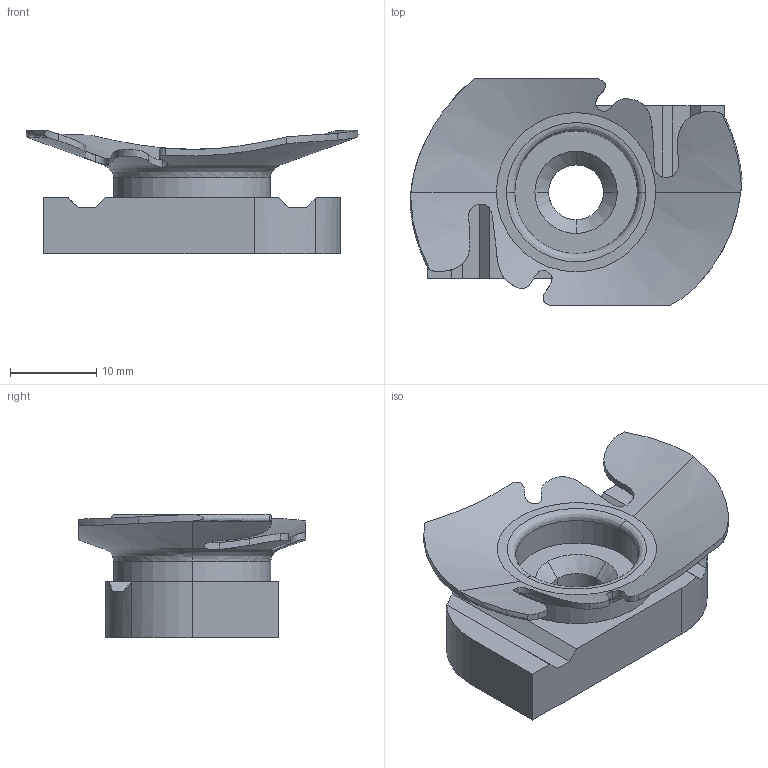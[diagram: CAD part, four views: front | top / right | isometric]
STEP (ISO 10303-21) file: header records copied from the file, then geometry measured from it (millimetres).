
FILE_DESCRIPTION(('TurboCAD Mac Pro'),'Build 980');
FILE_NAME('P1006T1420.stp',' ',(''),(''),'ACIS Interop','IMSI','TurboCAD Mac Pro BY IMSI, INCORPORATED');
FILE_SCHEMA(('automotive_design'));
Length unit declared in the file: inch
Products named in the file (1): 1
Bounding box: 38.45 x 26.22 x 14.28 mm (x, y, z)
Volume: 4636.1 mm3; surface area: 3536.2 mm2
Topology: 1 solids, 1 shells, 73 faces, 196 edges, 127 vertices
Faces by surface type: bspline 30, plane 20, cylinder 8, cone 8, revolution 7
Entity records: 3878 total; most frequent: CARTESIAN_POINT 1667, ORIENTED_EDGE 392, DIRECTION 233, EDGE_CURVE 196, VERTEX_POINT 127, B_SPLINE_CURVE_WITH_KNOTS 83, AXIS2_PLACEMENT_3D 77, EDGE_LOOP 77
